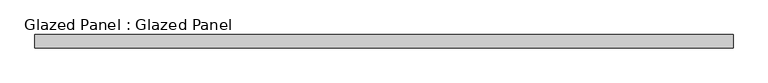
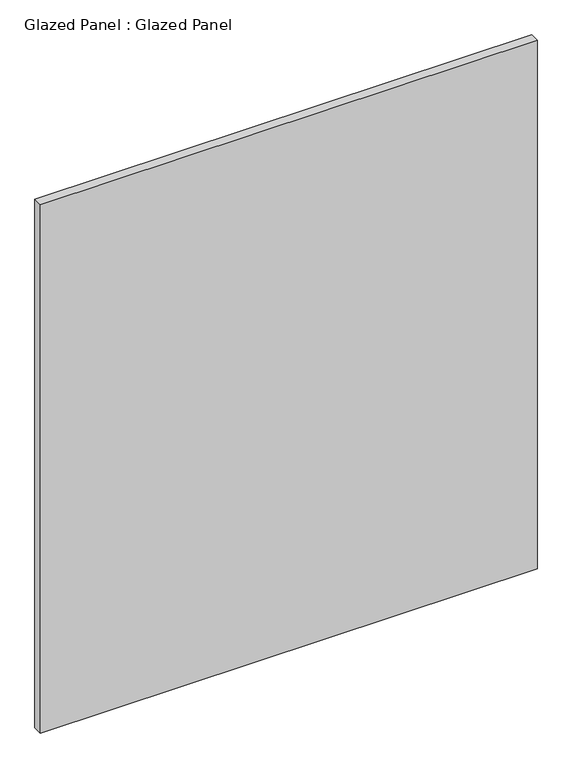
"""IFC4 building model written with IfcOpenShell, lengths in millimetres: plate geometry, Glazed Panel : Glazed Panel."""

from ifc_helpers import new_model, si_unit, origin, origin_with_axes, place, context, project, spatial, polyline, outline, extrude, source, transform, mapped, element, save


def glazed_panel_glazed_panel_2c2364df(model_context):
    return source(origin(), model_context, "Body", "SweptSolid", [
        extrude(outline(polyline([(663.575, 38.1), (-663.575, 38.1), (-663.575, 63.5), (663.575, 63.5), (663.575, 38.1)])), origin_with_axes(), (0.0, 0.0, 1.0), 1492.25),
    ])


if __name__ == "__main__":
    model = new_model("IFC4")
    model_context = context("Model", 3, world=origin())
    ifc_project = project(units=[si_unit("LENGTHUNIT", "METRE", prefix="MILLI")], contexts=[model_context])
    site = spatial("IfcSite", under=ifc_project)
    building = spatial("IfcBuilding", under=site)
    placement = place(None, origin())
    glazed_panel_glazed_panel_shape = glazed_panel_glazed_panel_2c2364df(model_context)
    element("IfcPlate", 1, ObjectType="Glazed Panel : Glazed Panel", at=placement, inside=building, context=model_context, shape_type="MappedRepresentation", body=[
        mapped(glazed_panel_glazed_panel_shape, transform((0.0, 0.0, 0.0), x_axis=(1.0, 0.0, 0.0), y_axis=(0.0, 1.0, 0.0), z_axis=(0.0, 0.0, 1.0))),
    ])
    save(model, "model.ifc")
